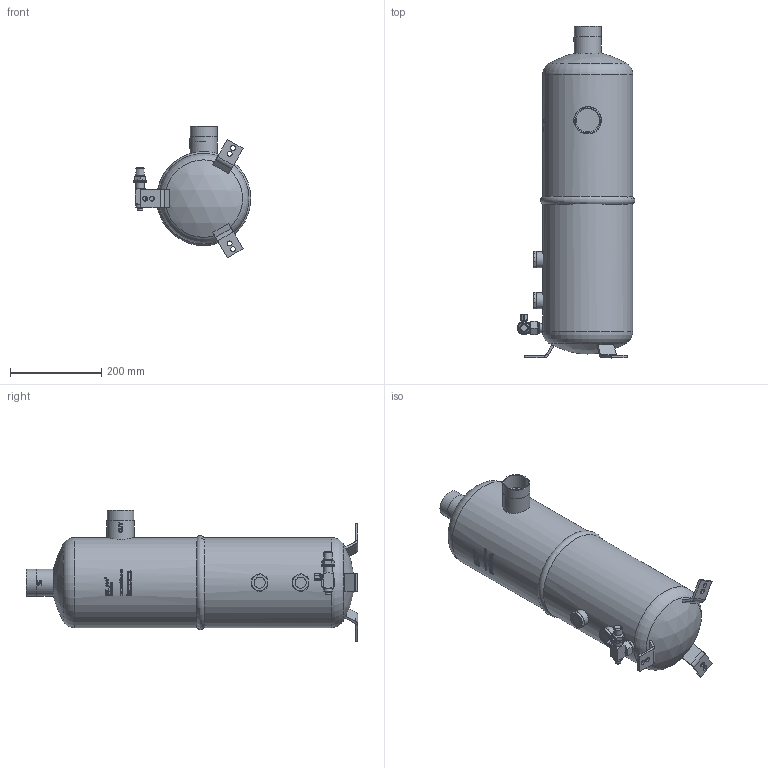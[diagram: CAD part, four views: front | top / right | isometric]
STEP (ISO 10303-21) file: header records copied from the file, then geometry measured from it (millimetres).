
FILE_DESCRIPTION(/* description */ (''),/* implementation_level */ '2;1');
FILE_NAME(/* name */ 'P:\OSR\OSR-7-54\OSR-7-54.stp',/* time_stamp */ '2015-10-27T15:10:56+01:00',/* author */ ('neufeld'),/* organization */ (''),/* preprocessor_version */ 'ST-DEVELOPER v15.2',/* originating_system */ 'Autodesk Inventor 2014',/* authorisation */ '');
FILE_SCHEMA (('AUTOMOTIVE_DESIGN { 1 0 10303 214 3 1 1 }'));
Length unit declared in the file: millimetre
Products named in the file (7): OSR-7-54-Rev.2_AG-Kunde; Körper für RAV-1-10-CD; Kappe1; Überwurfmutter 1Zoll; Kappe_DENA-LINE; RAV-1-10-CD
Bounding box: 258.02 x 728.22 x 288.94 mm (x, y, z)
Volume: 19699855.7 mm3; surface area: 520355 mm2
Topology: 8 solids, 8 shells, 1670 faces, 4422 edges, 2914 vertices
Faces by surface type: bspline 731, plane 607, cylinder 263, cone 59, torus 8, sphere 2
Full cylindrical faces by diameter (mm): 4 x1, 6.5 x1, 9 x2, 9.4 x1, 10.1 x1, 10.2 x1, 10.72 x1, 10.8 x6, 11 x1, 13 x1, 14 x1, 15 x1, 16.1 x1, 16.7 x1, 16.8 x1, 17 x1, 18 x1, 18.3 x1, 19 x1, 19.05 x1, 20 x3, 22.5 x2, 23 x1, 23.6 x2, 24.2 x2, 25.2 x1, 35 x2, 54.3 x2, 59 x2, 59.5 x2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
Entity records: 212577 total; most frequent: CARTESIAN_POINT 177151, ORIENTED_EDGE 8626, DIRECTION 4750, EDGE_CURVE 4301, VERTEX_POINT 2885, EDGE_LOOP 1922, B_SPLINE_CURVE_WITH_KNOTS 1862, LINE 1712
